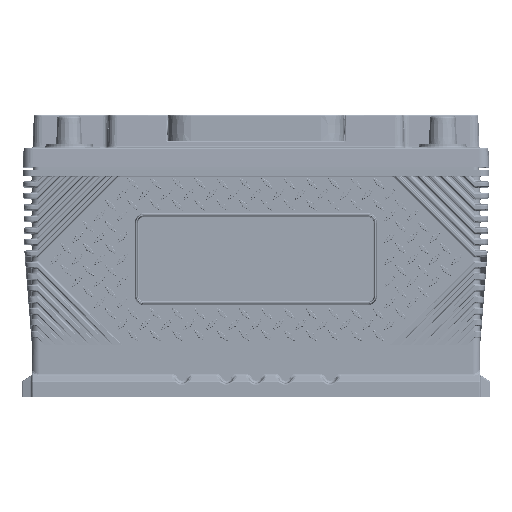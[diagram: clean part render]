
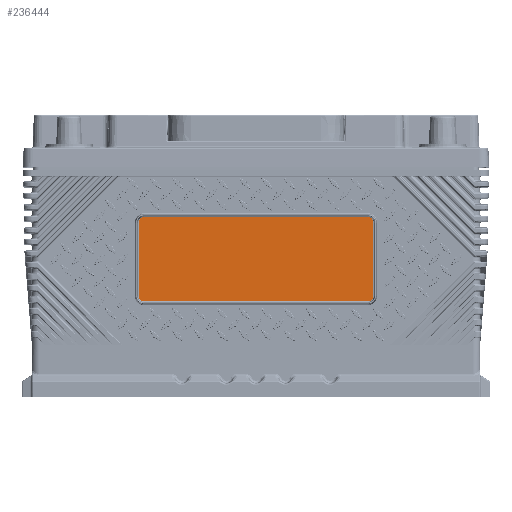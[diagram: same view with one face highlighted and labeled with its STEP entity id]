
A CAD part, top view. The second image highlights one B-rep face of the part: STEP entity #236444.
In plain terms, the highlighted planar face has unit normal (0, -0.001, 1).
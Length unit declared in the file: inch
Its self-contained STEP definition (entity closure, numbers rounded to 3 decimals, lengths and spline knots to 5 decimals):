
#5838 = ORIENTED_EDGE ( 'NONE', *, *, #177385, .T. ) ;
#18102 = EDGE_CURVE ( 'NONE', #162158, #88921, #321387, .T. ) ;
#18956 = EDGE_CURVE ( 'NONE', #436032, #162158, #332287, .T. ) ;
#30799 = CARTESIAN_POINT ( 'NONE',  ( -2.9615, 4.75592, 3.17427 ) ) ;
#45429 = DIRECTION ( 'NONE',  ( 0., -1., -0.001 ) ) ;
#51647 = DIRECTION ( 'NONE',  ( 0., -1., -0.001 ) ) ;
#57546 = DIRECTION ( 'NONE',  ( 0., -1., -0.001 ) ) ;
#58886 = LINE ( 'NONE', #507083, #345506 ) ;
#73562 = CARTESIAN_POINT ( 'NONE',  ( -5.9252, 2.5311, 3.17194 ) ) ;
#79170 = VERTEX_POINT ( 'NONE', #340596 ) ;
#86677 = CARTESIAN_POINT ( 'NONE',  ( -3.10491, 0., 3.16929 ) ) ;
#88921 = VERTEX_POINT ( 'NONE', #219599 ) ;
#89680 = AXIS2_PLACEMENT_3D ( 'NONE', #173649, #386752, #57546 ) ;
#96711 = DIRECTION ( 'NONE',  ( 0., 1., 0.001 ) ) ;
#100873 = VERTEX_POINT ( 'NONE', #523148 ) ;
#113543 = DIRECTION ( 'NONE',  ( 0., -1., -0.001 ) ) ;
#122564 = EDGE_LOOP ( 'NONE', ( #153161, #413673, #293100, #367004, #172866, #475222, #217178, #5838 ) ) ;
#131955 = CARTESIAN_POINT ( 'NONE',  ( 3.10491, 2.67451, 3.17209 ) ) ;
#132630 = CARTESIAN_POINT ( 'NONE',  ( -2.9615, 4.61251, 3.17412 ) ) ;
#153161 = ORIENTED_EDGE ( 'NONE', *, *, #18956, .T. ) ;
#154050 = DIRECTION ( 'NONE',  ( 0., -0.001, 1. ) ) ;
#157128 = LINE ( 'NONE', #73562, #533398 ) ;
#162158 = VERTEX_POINT ( 'NONE', #352291 ) ;
#168575 = VERTEX_POINT ( 'NONE', #131955 ) ;
#172866 = ORIENTED_EDGE ( 'NONE', *, *, #274162, .T. ) ;
#173649 = CARTESIAN_POINT ( 'NONE',  ( 2.9615, 4.61251, 3.17412 ) ) ;
#174815 = CARTESIAN_POINT ( 'NONE',  ( -2.9615, 2.67451, 3.17209 ) ) ;
#176204 = DIRECTION ( 'NONE',  ( -1., 0., 0. ) ) ;
#176429 = VECTOR ( 'NONE', #176204, 39.37008 ) ;
#177385 = EDGE_CURVE ( 'NONE', #470872, #436032, #342321, .T. ) ;
#184499 = EDGE_CURVE ( 'NONE', #485325, #168575, #298828, .T. ) ;
#217178 = ORIENTED_EDGE ( 'NONE', *, *, #465146, .T. ) ;
#219599 = CARTESIAN_POINT ( 'NONE',  ( -2.9615, 2.5311, 3.17194 ) ) ;
#236444 = ADVANCED_FACE ( 'NONE', ( #523957 ), #488759, .T. ) ;
#247514 = AXIS2_PLACEMENT_3D ( 'NONE', #132630, #421494, #51647 ) ;
#253873 = CARTESIAN_POINT ( 'NONE',  ( 2.9615, 2.5311, 3.17194 ) ) ;
#267825 = LINE ( 'NONE', #297703, #176429 ) ;
#274162 = EDGE_CURVE ( 'NONE', #168575, #100873, #58886, .T. ) ;
#278176 = CARTESIAN_POINT ( 'NONE',  ( -5.9252, 0., 3.16929 ) ) ;
#278636 = DIRECTION ( 'NONE',  ( 1., 0., 0. ) ) ;
#293100 = ORIENTED_EDGE ( 'NONE', *, *, #508970, .T. ) ;
#297703 = CARTESIAN_POINT ( 'NONE',  ( -5.9252, 4.75592, 3.17427 ) ) ;
#298828 = CIRCLE ( 'NONE', #462683, 0.14341 ) ;
#299954 = EDGE_CURVE ( 'NONE', #100873, #79170, #408710, .T. ) ;
#321387 = CIRCLE ( 'NONE', #442077, 0.14341 ) ;
#331550 = DIRECTION ( 'NONE',  ( 0., -0.001, 1. ) ) ;
#332287 = LINE ( 'NONE', #86677, #425466 ) ;
#340596 = CARTESIAN_POINT ( 'NONE',  ( 2.9615, 4.75592, 3.17427 ) ) ;
#342321 = CIRCLE ( 'NONE', #247514, 0.14341 ) ;
#345506 = VECTOR ( 'NONE', #96711, 39.37008 ) ;
#352291 = CARTESIAN_POINT ( 'NONE',  ( -3.10491, 2.67451, 3.17209 ) ) ;
#367004 = ORIENTED_EDGE ( 'NONE', *, *, #184499, .T. ) ;
#374199 = CARTESIAN_POINT ( 'NONE',  ( -3.10491, 4.61251, 3.17412 ) ) ;
#386752 = DIRECTION ( 'NONE',  ( 0., -0.001, 1. ) ) ;
#408710 = CIRCLE ( 'NONE', #89680, 0.14341 ) ;
#413673 = ORIENTED_EDGE ( 'NONE', *, *, #18102, .T. ) ;
#421494 = DIRECTION ( 'NONE',  ( 0., -0.001, 1. ) ) ;
#425466 = VECTOR ( 'NONE', #497036, 39.37008 ) ;
#436032 = VERTEX_POINT ( 'NONE', #374199 ) ;
#442077 = AXIS2_PLACEMENT_3D ( 'NONE', #174815, #331550, #45429 ) ;
#462683 = AXIS2_PLACEMENT_3D ( 'NONE', #504260, #512231, #463720 ) ;
#463720 = DIRECTION ( 'NONE',  ( 0., -1., -0.001 ) ) ;
#465146 = EDGE_CURVE ( 'NONE', #79170, #470872, #267825, .T. ) ;
#470872 = VERTEX_POINT ( 'NONE', #30799 ) ;
#475222 = ORIENTED_EDGE ( 'NONE', *, *, #299954, .T. ) ;
#485325 = VERTEX_POINT ( 'NONE', #253873 ) ;
#488759 = PLANE ( 'NONE',  #521132 ) ;
#497036 = DIRECTION ( 'NONE',  ( 0., -1., -0.001 ) ) ;
#504260 = CARTESIAN_POINT ( 'NONE',  ( 2.9615, 2.67451, 3.17209 ) ) ;
#507083 = CARTESIAN_POINT ( 'NONE',  ( 3.10491, 0., 3.16929 ) ) ;
#508970 = EDGE_CURVE ( 'NONE', #88921, #485325, #157128, .T. ) ;
#512231 = DIRECTION ( 'NONE',  ( 0., -0.001, 1. ) ) ;
#521132 = AXIS2_PLACEMENT_3D ( 'NONE', #278176, #154050, #113543 ) ;
#523148 = CARTESIAN_POINT ( 'NONE',  ( 3.10491, 4.61251, 3.17412 ) ) ;
#523957 = FACE_OUTER_BOUND ( 'NONE', #122564, .T. ) ;
#533398 = VECTOR ( 'NONE', #278636, 39.37008 ) ;
